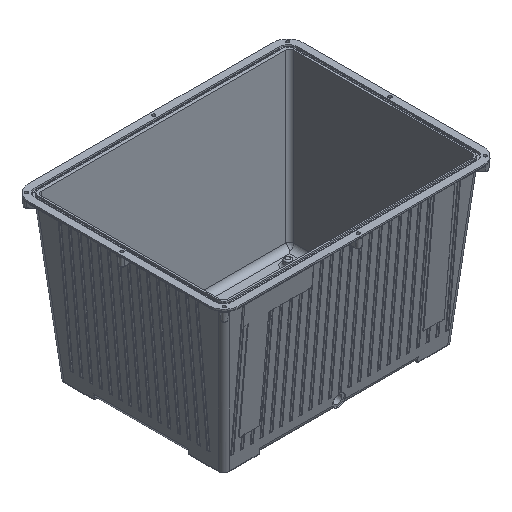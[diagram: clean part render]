
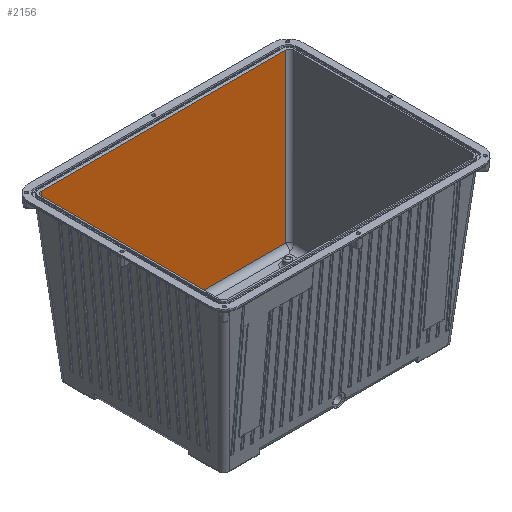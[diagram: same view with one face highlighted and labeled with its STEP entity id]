
A CAD part, isometric view. The second image highlights one B-rep face of the part: STEP entity #2156.
In plain terms, the highlighted planar face has unit normal (0, -0.996, 0.087).
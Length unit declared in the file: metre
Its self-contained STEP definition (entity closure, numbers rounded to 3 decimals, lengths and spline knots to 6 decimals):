
#2156 = ADVANCED_FACE( '', ( #4940 ), #4941, .F. );
#4940 = FACE_OUTER_BOUND( '', #14398, .T. );
#4941 = PLANE( '', #14399 );
#14398 = EDGE_LOOP( '', ( #25759, #25760, #25761, #25762 ) );
#14399 = AXIS2_PLACEMENT_3D( '', #25763, #25764, #25765 );
#25759 = ORIENTED_EDGE( '', *, *, #33646, .T. );
#25760 = ORIENTED_EDGE( '', *, *, #33647, .T. );
#25761 = ORIENTED_EDGE( '', *, *, #33384, .F. );
#25762 = ORIENTED_EDGE( '', *, *, #32332, .T. );
#25763 = CARTESIAN_POINT( '', ( 0., 0.204, 0. ) );
#25764 = DIRECTION( '', ( 0., 0.996, -0.087 ) );
#25765 = DIRECTION( '', ( 0., 0.087, 0.996 ) );
#32332 = EDGE_CURVE( '', #37068, #37072, #37074, .T. );
#33384 = EDGE_CURVE( '', #37068, #38672, #38673, .F. );
#33646 = EDGE_CURVE( '', #37072, #37053, #39035, .T. );
#33647 = EDGE_CURVE( '', #37053, #38672, #39036, .F. );
#37053 = VERTEX_POINT( '', #46361 );
#37068 = VERTEX_POINT( '', #46458 );
#37072 = VERTEX_POINT( '', #46463 );
#37074 = LINE( '', #46465, #46466 );
#38672 = VERTEX_POINT( '', #50867 );
#38673 = LINE( '', #50868, #50869 );
#39035 = LINE( '', #51985, #51986 );
#39036 = LINE( '', #51987, #51988 );
#46361 = CARTESIAN_POINT( '', ( 0.239451, 0.174417, -0.338133 ) );
#46458 = CARTESIAN_POINT( '', ( -0.269034, 0.204, 0. ) );
#46463 = CARTESIAN_POINT( '', ( -0.239451, 0.174417, -0.338133 ) );
#46465 = CARTESIAN_POINT( '', ( -0.268577, 0.203543, -0.005227 ) );
#46466 = VECTOR( '', #57514, 1. );
#50867 = CARTESIAN_POINT( '', ( 0.269034, 0.204, 0. ) );
#50868 = CARTESIAN_POINT( '', ( 0., 0.204, 0. ) );
#50869 = VECTOR( '', #58695, 1. );
#51985 = CARTESIAN_POINT( '', ( 0., 0.174417, -0.338133 ) );
#51986 = VECTOR( '', #58970, 1. );
#51987 = CARTESIAN_POINT( '', ( 0.269102, 0.204068, 0.000773 ) );
#51988 = VECTOR( '', #58971, 1. );
#57514 = DIRECTION( '', ( 0.087, -0.087, -0.992 ) );
#58695 = DIRECTION( '', ( -1., 0., 0. ) );
#58970 = DIRECTION( '', ( 1., 0., 0. ) );
#58971 = DIRECTION( '', ( -0.087, -0.087, -0.992 ) );
